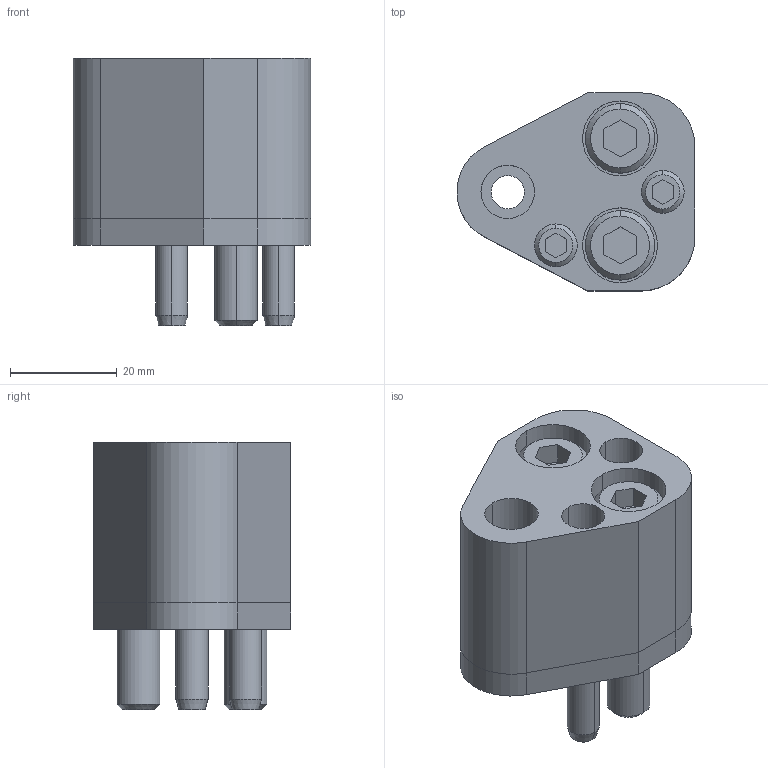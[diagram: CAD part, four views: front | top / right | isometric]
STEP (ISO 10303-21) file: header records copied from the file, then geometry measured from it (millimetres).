
FILE_DESCRIPTION(/* description */ (''),/* implementation_level */ '2;1');
FILE_NAME(/* name */ '3d_hdp-ap10_02757_r00.stp',/* time_stamp */ '2011-01-10T14:14:54+09:00',/* author */ ('MISUMI'),/* organization */ (''),/* preprocessor_version */ 'ST-DEVELOPER v11',/* originating_system */ 'UGS - NX 5.0',/* authorisation */ '');
FILE_SCHEMA (('CONFIG_CONTROL_DESIGN'));
Length unit declared in the file: millimetre
Products named in the file (1): 3d_hdp-ap10_02757_r00
Bounding box: 44.47 x 37 x 50 mm (x, y, z)
Volume: 40751.6 mm3; surface area: 19082.2 mm2
Topology: 8 solids, 8 shells, 155 faces, 346 edges, 222 vertices
Faces by surface type: plane 67, cylinder 62, cone 26
Entity records: 4480 total; most frequent: DIRECTION 804, CARTESIAN_POINT 778, ORIENTED_EDGE 692, EDGE_CURVE 346, AXIS2_PLACEMENT_3D 306, VERTEX_POINT 222, LINE 192, VECTOR 192
